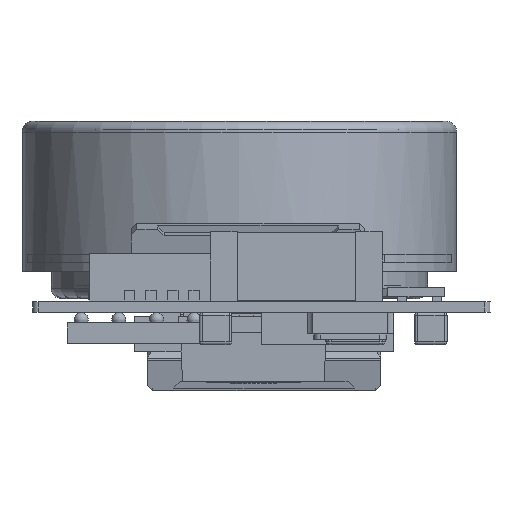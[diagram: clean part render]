
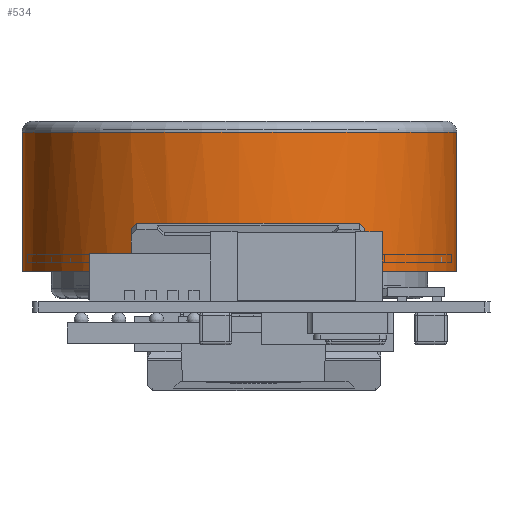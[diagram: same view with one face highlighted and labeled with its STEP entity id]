
A CAD part, left-side view. The second image highlights one B-rep face of the part: STEP entity #534.
In plain terms, the highlighted cylindrical face has radius 4.04 mm (diameter 8.08 mm), a partial arc.
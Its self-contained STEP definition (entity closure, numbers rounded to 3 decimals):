
#505 = VERTEX_POINT('',#506);
#506 = CARTESIAN_POINT('',(-4.04,0.2,0.));
#515 = VERTEX_POINT('',#516);
#516 = CARTESIAN_POINT('',(4.04,0.2,0.));
#523 = EDGE_CURVE('',#505,#515,#524,.T.);
#524 = CIRCLE('',#525,4.04);
#525 = AXIS2_PLACEMENT_3D('',#526,#527,#528);
#526 = CARTESIAN_POINT('',(0.,0.2,0.));
#527 = DIRECTION('',(0.,1.,0.));
#528 = DIRECTION('',(-1.,0.,0.));
#534 = ADVANCED_FACE('',(#535),#659,.T.);
#535 = FACE_BOUND('',#536,.T.);
#536 = EDGE_LOOP('',(#537,#548,#554,#555,#563,#572,#580,#598,#612,#621,
    #635,#653));
#537 = ORIENTED_EDGE('',*,*,#538,.T.);
#538 = EDGE_CURVE('',#539,#541,#543,.T.);
#539 = VERTEX_POINT('',#540);
#540 = CARTESIAN_POINT('',(-1.35,2.79,3.808));
#541 = VERTEX_POINT('',#542);
#542 = CARTESIAN_POINT('',(-4.04,2.79,0.));
#543 = CIRCLE('',#544,4.04);
#544 = AXIS2_PLACEMENT_3D('',#545,#546,#547);
#545 = CARTESIAN_POINT('',(0.,2.79,0.));
#546 = DIRECTION('',(0.,-1.,0.));
#547 = DIRECTION('',(-0.334,0.,0.943));
#548 = ORIENTED_EDGE('',*,*,#549,.F.);
#549 = EDGE_CURVE('',#505,#541,#550,.T.);
#550 = LINE('',#551,#552);
#551 = CARTESIAN_POINT('',(-4.04,0.2,0.));
#552 = VECTOR('',#553,1.);
#553 = DIRECTION('',(0.,1.,0.));
#554 = ORIENTED_EDGE('',*,*,#523,.T.);
#555 = ORIENTED_EDGE('',*,*,#556,.T.);
#556 = EDGE_CURVE('',#515,#557,#559,.T.);
#557 = VERTEX_POINT('',#558);
#558 = CARTESIAN_POINT('',(4.04,2.79,0.));
#559 = LINE('',#560,#561);
#560 = CARTESIAN_POINT('',(4.04,0.2,0.));
#561 = VECTOR('',#562,1.);
#562 = DIRECTION('',(0.,1.,0.));
#563 = ORIENTED_EDGE('',*,*,#564,.T.);
#564 = EDGE_CURVE('',#557,#565,#567,.T.);
#565 = VERTEX_POINT('',#566);
#566 = CARTESIAN_POINT('',(1.35,2.79,3.808));
#567 = CIRCLE('',#568,4.04);
#568 = AXIS2_PLACEMENT_3D('',#569,#570,#571);
#569 = CARTESIAN_POINT('',(0.,2.79,0.));
#570 = DIRECTION('',(0.,-1.,0.));
#571 = DIRECTION('',(1.,0.,0.));
#572 = ORIENTED_EDGE('',*,*,#573,.T.);
#573 = EDGE_CURVE('',#565,#574,#576,.T.);
#574 = VERTEX_POINT('',#575);
#575 = CARTESIAN_POINT('',(1.35,2.32,3.808));
#576 = LINE('',#577,#578);
#577 = CARTESIAN_POINT('',(1.35,2.79,3.808));
#578 = VECTOR('',#579,1.);
#579 = DIRECTION('',(0.,-1.,0.));
#580 = ORIENTED_EDGE('',*,*,#581,.F.);
#581 = EDGE_CURVE('',#582,#574,#584,.T.);
#582 = VERTEX_POINT('',#583);
#583 = CARTESIAN_POINT('',(1.163,2.27,3.869));
#584 = B_SPLINE_CURVE_WITH_KNOTS('',3,(#585,#586,#587,#588,#589,#590,
    #591,#592,#593,#594,#595,#596,#597),.UNSPECIFIED.,.F.,.F.,(4,1,1,1,1
    ,1,1,1,1,1,4),(0.,0.1,0.2,0.3,0.4,0.5,0.6,0.7,0.8,0.9,1.),
  .QUASI_UNIFORM_KNOTS.);
#585 = CARTESIAN_POINT('',(1.163,2.27,3.869));
#586 = CARTESIAN_POINT('',(1.168,2.263,3.868)
  );
#587 = CARTESIAN_POINT('',(1.177,2.25,3.865)
  );
#588 = CARTESIAN_POINT('',(1.196,2.235,3.859)
  );
#589 = CARTESIAN_POINT('',(1.217,2.224,3.852)
  );
#590 = CARTESIAN_POINT('',(1.24,2.22,3.845)
  );
#591 = CARTESIAN_POINT('',(1.265,2.22,3.837)
  );
#592 = CARTESIAN_POINT('',(1.289,2.227,3.829)
  );
#593 = CARTESIAN_POINT('',(1.313,2.241,3.821)
  );
#594 = CARTESIAN_POINT('',(1.333,2.261,3.814)
  );
#595 = CARTESIAN_POINT('',(1.347,2.29,3.809)
  );
#596 = CARTESIAN_POINT('',(1.35,2.309,3.808));
#597 = CARTESIAN_POINT('',(1.35,2.32,3.808));
#598 = ORIENTED_EDGE('',*,*,#599,.F.);
#599 = EDGE_CURVE('',#600,#582,#602,.T.);
#600 = VERTEX_POINT('',#601);
#601 = CARTESIAN_POINT('',(1.077,2.32,3.894));
#602 = B_SPLINE_CURVE_WITH_KNOTS('',3,(#603,#604,#605,#606,#607,#608,
    #609,#610,#611),.UNSPECIFIED.,.F.,.F.,(4,1,1,1,1,1,4),(0.,
    0.167,0.333,0.5,0.667,0.833,1.),
  .UNSPECIFIED.);
#603 = CARTESIAN_POINT('',(1.077,2.32,3.894));
#604 = CARTESIAN_POINT('',(1.083,2.32,3.892));
#605 = CARTESIAN_POINT('',(1.094,2.319,3.889)
  );
#606 = CARTESIAN_POINT('',(1.111,2.315,3.884)
  );
#607 = CARTESIAN_POINT('',(1.127,2.307,3.88)
  );
#608 = CARTESIAN_POINT('',(1.141,2.297,3.876)
  );
#609 = CARTESIAN_POINT('',(1.154,2.285,3.872)
  );
#610 = CARTESIAN_POINT('',(1.16,2.275,3.87)
  );
#611 = CARTESIAN_POINT('',(1.163,2.27,3.869));
#612 = ORIENTED_EDGE('',*,*,#613,.T.);
#613 = EDGE_CURVE('',#600,#614,#616,.T.);
#614 = VERTEX_POINT('',#615);
#615 = CARTESIAN_POINT('',(-1.077,2.32,3.894));
#616 = CIRCLE('',#617,4.04);
#617 = AXIS2_PLACEMENT_3D('',#618,#619,#620);
#618 = CARTESIAN_POINT('',(0.,2.32,0.));
#619 = DIRECTION('',(0.,-1.,0.));
#620 = DIRECTION('',(0.267,0.,0.964));
#621 = ORIENTED_EDGE('',*,*,#622,.F.);
#622 = EDGE_CURVE('',#623,#614,#625,.T.);
#623 = VERTEX_POINT('',#624);
#624 = CARTESIAN_POINT('',(-1.163,2.27,3.869));
#625 = B_SPLINE_CURVE_WITH_KNOTS('',3,(#626,#627,#628,#629,#630,#631,
    #632,#633,#634),.UNSPECIFIED.,.F.,.F.,(4,1,1,1,1,1,4),(0.,
    0.167,0.333,0.5,0.667,0.833,1.),
  .UNSPECIFIED.);
#626 = CARTESIAN_POINT('',(-1.163,2.27,3.869));
#627 = CARTESIAN_POINT('',(-1.16,2.275,3.87
    ));
#628 = CARTESIAN_POINT('',(-1.154,2.285,3.872)
  );
#629 = CARTESIAN_POINT('',(-1.141,2.297,3.875
    ));
#630 = CARTESIAN_POINT('',(-1.127,2.307,3.88)
  );
#631 = CARTESIAN_POINT('',(-1.111,2.314,3.884)
  );
#632 = CARTESIAN_POINT('',(-1.094,2.319,3.889)
  );
#633 = CARTESIAN_POINT('',(-1.083,2.32,3.892));
#634 = CARTESIAN_POINT('',(-1.077,2.32,3.894));
#635 = ORIENTED_EDGE('',*,*,#636,.F.);
#636 = EDGE_CURVE('',#637,#623,#639,.T.);
#637 = VERTEX_POINT('',#638);
#638 = CARTESIAN_POINT('',(-1.35,2.32,3.808));
#639 = B_SPLINE_CURVE_WITH_KNOTS('',3,(#640,#641,#642,#643,#644,#645,
    #646,#647,#648,#649,#650,#651,#652),.UNSPECIFIED.,.F.,.F.,(4,1,1,1,1
    ,1,1,1,1,1,4),(0.,0.1,0.2,0.3,0.4,0.5,0.6,0.7,0.8,0.9,1.),
  .QUASI_UNIFORM_KNOTS.);
#640 = CARTESIAN_POINT('',(-1.35,2.32,3.808));
#641 = CARTESIAN_POINT('',(-1.35,2.31,3.808));
#642 = CARTESIAN_POINT('',(-1.347,2.29,3.809
    ));
#643 = CARTESIAN_POINT('',(-1.333,2.262,3.814
    ));
#644 = CARTESIAN_POINT('',(-1.313,2.24,3.821
    ));
#645 = CARTESIAN_POINT('',(-1.289,2.227,3.829
    ));
#646 = CARTESIAN_POINT('',(-1.264,2.22,3.837
    ));
#647 = CARTESIAN_POINT('',(-1.239,2.22,3.845
    ));
#648 = CARTESIAN_POINT('',(-1.217,2.225,3.852)
  );
#649 = CARTESIAN_POINT('',(-1.196,2.235,3.859)
  );
#650 = CARTESIAN_POINT('',(-1.177,2.25,3.865
    ));
#651 = CARTESIAN_POINT('',(-1.168,2.263,3.868
    ));
#652 = CARTESIAN_POINT('',(-1.163,2.27,3.869));
#653 = ORIENTED_EDGE('',*,*,#654,.F.);
#654 = EDGE_CURVE('',#539,#637,#655,.T.);
#655 = LINE('',#656,#657);
#656 = CARTESIAN_POINT('',(-1.35,2.79,3.808));
#657 = VECTOR('',#658,1.);
#658 = DIRECTION('',(0.,-1.,0.));
#659 = CYLINDRICAL_SURFACE('',#660,4.04);
#660 = AXIS2_PLACEMENT_3D('',#661,#662,#663);
#661 = CARTESIAN_POINT('',(0.,2.93,0.));
#662 = DIRECTION('',(0.,-1.,0.));
#663 = DIRECTION('',(-1.,0.,0.));
